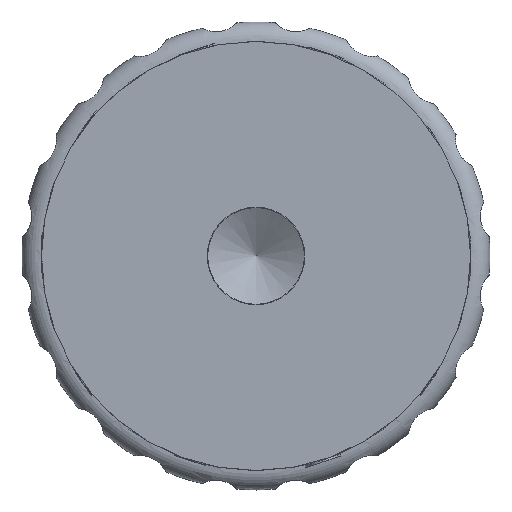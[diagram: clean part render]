
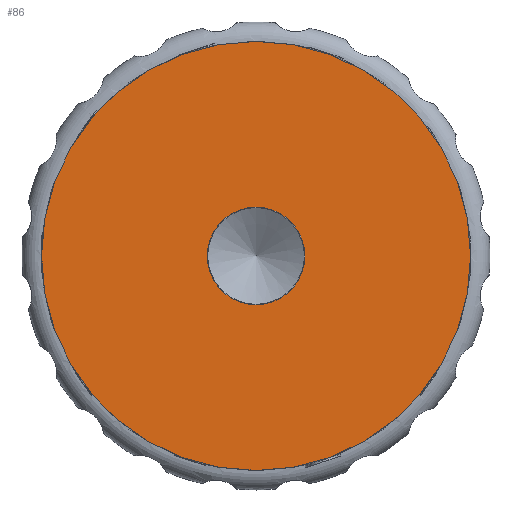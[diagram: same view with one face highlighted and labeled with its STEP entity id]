
A CAD part, left-side view. The second image highlights one B-rep face of the part: STEP entity #86.
In plain terms, the highlighted planar face has unit normal (-1, 0, 0).
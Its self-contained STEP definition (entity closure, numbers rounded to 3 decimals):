
#86 = ADVANCED_FACE( '', ( #439, #440 ), #441, .F. );
#439 = FACE_OUTER_BOUND( '', #1105, .T. );
#440 = FACE_BOUND( '', #1106, .T. );
#441 = PLANE( '', #1107 );
#1105 = EDGE_LOOP( '', ( #2011 ) );
#1106 = EDGE_LOOP( '', ( #2012 ) );
#1107 = AXIS2_PLACEMENT_3D( '', #2013, #2014, #2015 );
#2011 = ORIENTED_EDGE( '', *, *, #4336, .F. );
#2012 = ORIENTED_EDGE( '', *, *, #4461, .T. );
#2013 = CARTESIAN_POINT( '', ( 0., 2.5, 0. ) );
#2014 = DIRECTION( '', ( 1., 0., 0. ) );
#2015 = DIRECTION( '', ( 0., 0., -1. ) );
#4336 = EDGE_CURVE( '', #5242, #5242, #5243, .T. );
#4461 = EDGE_CURVE( '', #5492, #5492, #5493, .T. );
#5242 = VERTEX_POINT( '', #7227 );
#5243 = CIRCLE( '', #7228, 11. );
#5492 = VERTEX_POINT( '', #7673 );
#5493 = CIRCLE( '', #7674, 2.5 );
#7227 = CARTESIAN_POINT( '', ( 0., 0., -11. ) );
#7228 = AXIS2_PLACEMENT_3D( '', #9386, #9387, #9388 );
#7673 = CARTESIAN_POINT( '', ( 0., 0., -2.5 ) );
#7674 = AXIS2_PLACEMENT_3D( '', #9588, #9589, #9590 );
#9386 = CARTESIAN_POINT( '', ( 0., 0., 0. ) );
#9387 = DIRECTION( '', ( 1., 0., 0. ) );
#9388 = DIRECTION( '', ( 0., 0., -1. ) );
#9588 = CARTESIAN_POINT( '', ( 0., 0., 0. ) );
#9589 = DIRECTION( '', ( 1., 0., 0. ) );
#9590 = DIRECTION( '', ( 0., 0., -1. ) );
